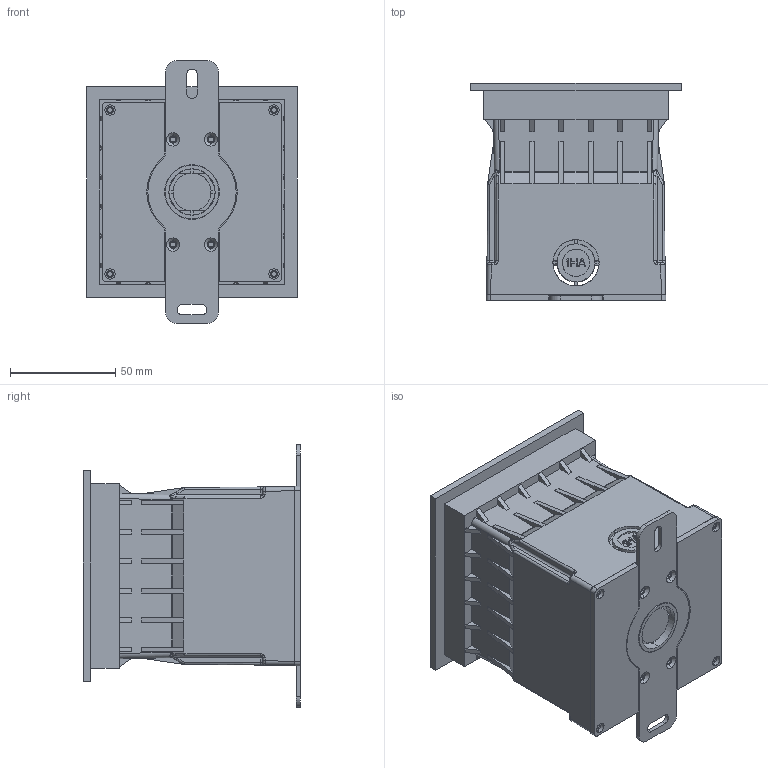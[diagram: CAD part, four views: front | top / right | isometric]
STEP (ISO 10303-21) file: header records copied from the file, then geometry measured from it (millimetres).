
FILE_DESCRIPTION((''),'2;1');
FILE_NAME('FANG_ASM_4_ASM_78_ASM','2017-03-21T',('Administrator'),(''),'PRO/ENGINEER BY PARAMETRIC TECHNOLOGY CORPORATION, 2014000','PRO/ENGINEER BY PARAMETRIC TECHNOLOGY CORPORATION, 2014000','');
FILE_SCHEMA(('CONFIG_CONTROL_DESIGN'));
Products named in the file (16): BODY_6_51; 2DF_2_20; KAPIAN_2_42; CAP_6_55; RUBBER-WUJIE_1_5; NVZHIJIA_5_14; MG-FP_4_29; GLASS-QIANG_4_6; 18LEDBAN_4_9; 1HA-HOUGAIFANGSHUITIAO_27; 1HA-YUMAITONG2_86; 1HA-YUMAITONGHOUGAI_46; 4AC-YUMAITONGDIPIAN_15; 1HA-YUMAITONGZUJIAN_ASM_37_ASM; DONGLUOMU; FANG_ASM_4_ASM_78_ASM
Assembly tree (16 placements, depth 3):
  FANG_ASM_4_ASM_78_ASM
    BODY_6_51
    2DF_2_20
    KAPIAN_2_42  x2
    CAP_6_55
    RUBBER-WUJIE_1_5
    NVZHIJIA_5_14
    MG-FP_4_29
    GLASS-QIANG_4_6
    18LEDBAN_4_9
    1HA-HOUGAIFANGSHUITIAO_27
    1HA-YUMAITONGZUJIAN_ASM_37_ASM
      1HA-YUMAITONG2_86
      1HA-YUMAITONGHOUGAI_46
      4AC-YUMAITONGDIPIAN_15
    DONGLUOMU
Bounding box: 100 x 103.5 x 125.01 mm (x, y, z)
Volume: 311303.6 mm3; surface area: 223295.2 mm2
Topology: 15 solids, 15 shells, 2142 faces, 5820 edges, 3765 vertices
Faces by surface type: plane 1084, cylinder 645, cone 160, torus 111, bspline 97, sphere 45
Entity records: 71400 total; most frequent: CARTESIAN_POINT 17209, ORIENTED_EDGE 11440, DIRECTION 11166, EDGE_CURVE 5720, AXIS2_PLACEMENT_3D 3858, VERTEX_POINT 3723, VECTOR 3450, LINE 3450
